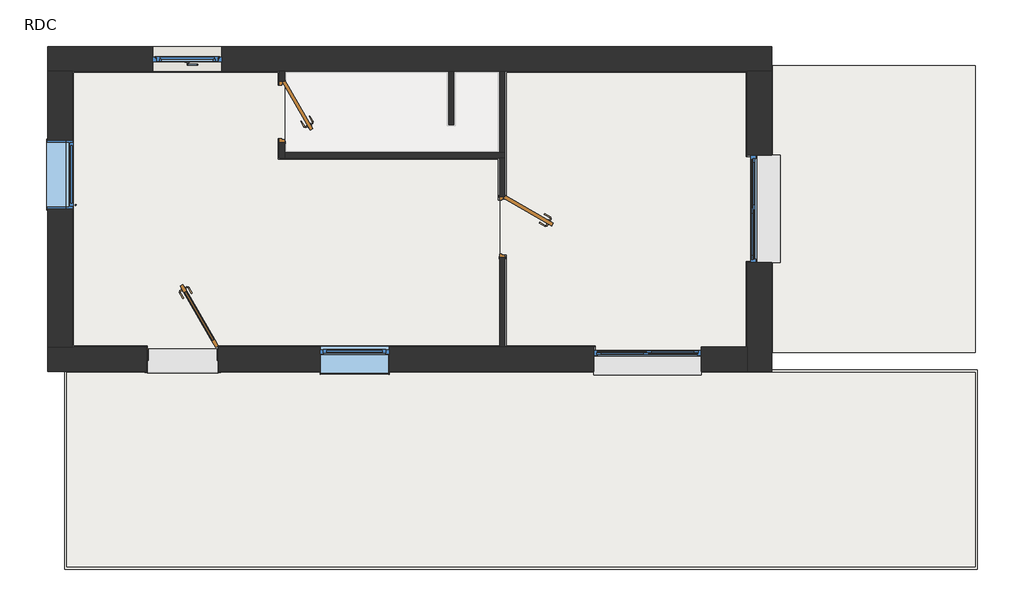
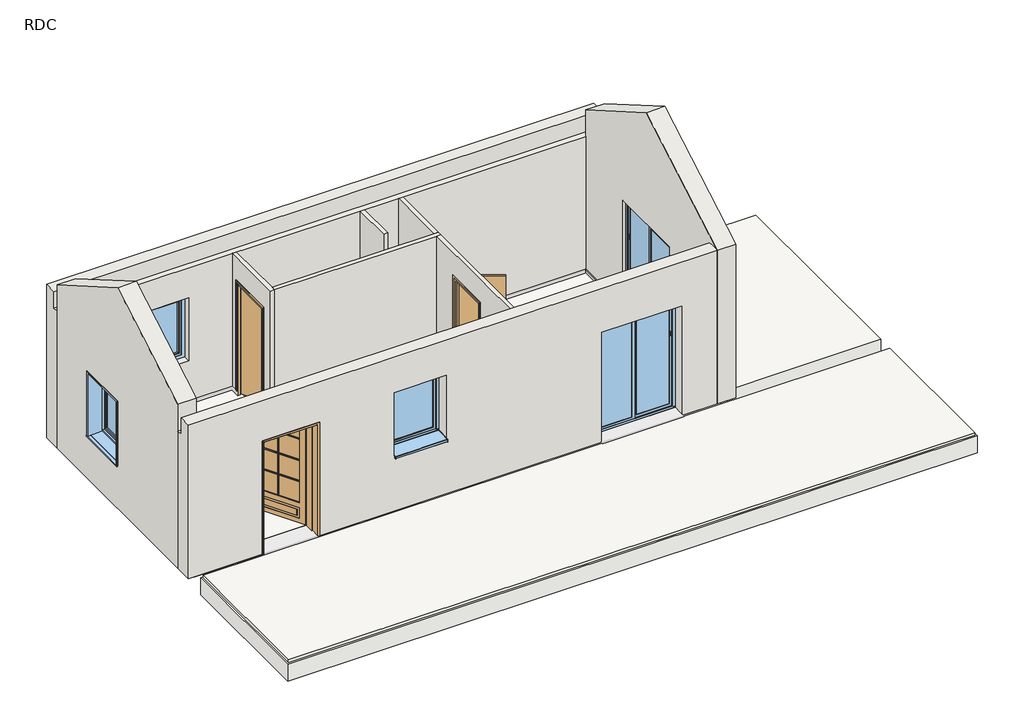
# One storey, part 1 of 2: 9 walls, 6 slabs, 5 windows, 3 doors, 3 proxies.
"""IFC4 building model written with IfcOpenShell, lengths in millimetres."""

from ifc_helpers import new_model, si_unit, frame, origin, place, context, project, spatial, polyline, circle_curve, ellipse_curve, outline, extrude, faceted_brep, transform, mapped, element, save
from ifc_brep_helpers import plane_surface, cylinder_surface, advanced_brep
from components import door_930_x_2040_mm_3ce59be3, int_simple_pp_0_73m_x_2_04m_0c6bfc17, int_simple_pp_0_73m_x_2_04m_0aa180c3, window_1_vantail_90_x_115_acd99d6d, window_140_x_200_b4d7d047, window_140_x_200_95ae9a11, schueco_aws_60_family1_type_1_a6c24e02, wt_1_panneau_042c0949

model = new_model("IFC4")

# Units and contexts
model_context = context("Model", 3, world=origin())
ifc_project = project(units=[si_unit("LENGTHUNIT", "METRE", prefix="MILLI")], contexts=[model_context])

# Site, building, storey
site = spatial("IfcSite", under=ifc_project)
building = spatial("IfcBuilding", under=site)
storey = spatial("IfcBuildingStorey", under=building, Name="RDC", Elevation=1000.0)

# Proxies
placement = place(None, origin())
element("IfcBuildingElementProxy", 1, Name="Bord des dalles", ObjectType="Bord des dalles", at=placement, inside=storey, context=model_context, shape_type="AdvancedBrep", body=[
    advanced_brep(
    [(11968.5031637, -1953.9493613, 1080.0), (11953.5031637, -1953.9493613, 1067.7576914), (11953.5031637, -1953.9493613, 1020.0), (11968.5031637, -1953.9493613, 1020.0), (11968.5031637, -853.9493613, 1020.0), (11968.5031637, -853.9493613, 1080.0), (11953.5031637, -838.9493613, 1020.0), (11953.5031637, -838.9493613, 1067.7576914), (12076.5031637, -853.9493613, 1080.0), (12076.5031637, -853.9493613, 1020.0), (12076.5031637, -838.9493613, 1020.0), (12076.5031637, -838.9493613, 1067.7576914)],
    [
        (0, 1, circle_curve(frame((11969.0579692, -1953.9493613, 1064.0096219), z_axis=(0.0, -1.0, 0.0), x_axis=(-1.0, 0.0, 0.0)), 16.0)),
        (1, 2),
        (2, 3),
        (3, 0),
        (3, 4),
        (4, 5),
        (5, 0),
        (2, 6),
        (6, 4),
        (1, 7),
        (7, 6),
        (5, 7, ellipse_curve(frame((11969.0579692, -854.5041669, 1064.0096219), z_axis=(-0.7071067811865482, -0.7071067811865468, 0.0), x_axis=(0.7071067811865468, -0.7071067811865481, 0.0)), 22.627417, 16.0)),
        (8, 9),
        (9, 10),
        (10, 11),
        (11, 8, circle_curve(frame((12076.5031637, -854.5041669, 1064.0096219), z_axis=(1.0, 0.0, 0.0), x_axis=(0.0, 1.0, 0.0)), 16.0)),
        (4, 9),
        (8, 5),
        (6, 10),
        (7, 11),
    ],
    [
        plane_surface(frame((11908.5031637, -1953.9493613, 1020.0), z_axis=(0.0, -1.0, 0.0), x_axis=(0.0, 0.0, 1.0))),
        plane_surface(frame((11968.5031637, -1953.9493613, 1020.0), z_axis=(1.0, 0.0, 0.0), x_axis=(0.0, 1.0, 0.0))),
        plane_surface(frame((11953.5031637, -1953.9493613, 1020.0), z_axis=(0.0, 0.0, -1.0), x_axis=(0.0, 1.0, 0.0))),
        plane_surface(frame((11953.5031637, -1953.9493613, 1067.7576914), z_axis=(-1.0, 0.0, 0.0), x_axis=(0.0, 1.0, 0.0))),
        cylinder_surface(frame((11969.0579692, -1953.9493613, 1064.0096219), z_axis=(0.0, -1.0, 0.0), x_axis=(-1.0, 0.0, 0.0)), 16.0),
        plane_surface(frame((12076.5031637, -853.9493613, 960.0), z_axis=(1.0, 0.0, 0.0), x_axis=(0.0, 1.0, 0.0))),
        plane_surface(frame((11968.5031637, -853.9493613, 1020.0), z_axis=(0.0, -1.0, 0.0), x_axis=(1.0, 0.0, 0.0))),
        plane_surface(frame((11953.5031637, -838.9493613, 1020.0), z_axis=(0.0, 0.0, -1.0), x_axis=(1.0, 0.0, 0.0))),
        plane_surface(frame((11953.5031637, -838.9493613, 1067.7576914), z_axis=(0.0, 1.0, 0.0), x_axis=(1.0, 0.0, 0.0))),
        cylinder_surface(frame((11968.5031637, -854.5041669, 1064.0096219), z_axis=(-1.0, 0.0, 0.0), x_axis=(0.0, 1.0, 0.0)), 16.0),
    ],
    [
        (0, [[1, 2, 3, 4]]),
        (1, [[-4, 5, 6, 7]]),
        (2, [[-3, 8, 9, -5]]),
        (3, [[-2, 10, 11, -8]]),
        (4, [[-1, -7, 12, -10]]),
        (5, [[13, 14, 15, 16]]),
        (6, [[-6, 17, -13, 18]]),
        (7, [[-9, 19, -14, -17]]),
        (8, [[-11, 20, -15, -19]]),
        (9, [[-12, -18, -16, -20]]),
    ],
),
    advanced_brep(
    [(11968.5031637, 1646.0506387, 1080.0), (11968.5031637, 1646.0506387, 1020.0), (11953.5031637, 1631.0506387, 1020.0), (11953.5031637, 1631.0506387, 1067.7576914), (11968.5031637, 546.0506387, 1080.0), (11968.5031637, 546.0506387, 1020.0), (11953.5031637, 531.0506387, 1020.0), (11953.5031637, 531.0506387, 1067.7576914), (12076.5031637, 546.0506387, 1080.0), (12076.5031637, 531.0506387, 1067.7576914), (12076.5031637, 531.0506387, 1020.0), (12076.5031637, 546.0506387, 1020.0)],
    [
        (0, 1),
        (1, 2),
        (2, 3),
        (3, 0, ellipse_curve(frame((11969.0579692, 1646.6054442, 1064.0096219), z_axis=(-0.7071067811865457, 0.7071067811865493, 0.0), x_axis=(-0.7071067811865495, -0.7071067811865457, 0.0)), 22.627417, 16.0)),
        (4, 5),
        (5, 1),
        (0, 4),
        (5, 6),
        (6, 2),
        (6, 7),
        (7, 3),
        (7, 4, ellipse_curve(frame((11969.0579692, 546.6054442, 1064.0096219), z_axis=(-0.707106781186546, 0.7071067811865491, 0.0), x_axis=(-0.7071067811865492, -0.7071067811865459, 0.0)), 22.627417, 16.0)),
        (8, 9, circle_curve(frame((12076.5031637, 546.6054442, 1064.0096219), z_axis=(1.0, 0.0, 0.0), x_axis=(0.0, -1.0, 0.0)), 16.0)),
        (9, 10),
        (10, 11),
        (11, 8),
        (11, 5),
        (4, 8),
        (10, 6),
        (9, 7),
    ],
    [
        plane_surface(frame((11968.5031637, 1646.0506387, 1020.0), z_axis=(-0.7071067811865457, 0.7071067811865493, 0.0), x_axis=(-0.7071067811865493, -0.7071067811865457, 0.0))),
        plane_surface(frame((11968.5031637, 546.0506387, 1020.0), z_axis=(1.0, 0.0, 0.0), x_axis=(0.0, 1.0, 0.0))),
        plane_surface(frame((11953.5031637, 531.0506387, 1020.0), z_axis=(0.0, 0.0, -1.0), x_axis=(0.0, 1.0, 0.0))),
        plane_surface(frame((11953.5031637, 531.0506387, 1067.7576914), z_axis=(-1.0, 0.0, 0.0), x_axis=(0.0, 1.0, 0.0))),
        cylinder_surface(frame((11969.0579692, 546.0506387, 1064.0096219), z_axis=(0.0, -1.0, 0.0), x_axis=(-1.0, 0.0, 0.0)), 16.0),
        plane_surface(frame((12076.5031637, 546.0506387, 960.0), z_axis=(1.0, 0.0, 0.0), x_axis=(0.0, -1.0, 0.0))),
        plane_surface(frame((12076.5031637, 546.0506387, 1020.0), z_axis=(0.0, 1.0, 0.0), x_axis=(-1.0, 0.0, 0.0))),
        plane_surface(frame((12076.5031637, 531.0506387, 1020.0), z_axis=(0.0, 0.0, -1.0), x_axis=(-1.0, 0.0, 0.0))),
        plane_surface(frame((12076.5031637, 531.0506387, 1067.7576914), z_axis=(0.0, -1.0, 0.0), x_axis=(-1.0, 0.0, 0.0))),
        cylinder_surface(frame((12076.5031637, 546.6054442, 1064.0096219), z_axis=(1.0, 0.0, 0.0), x_axis=(0.0, -1.0, 0.0)), 16.0),
    ],
    [
        (0, [[1, 2, 3, 4]]),
        (1, [[5, 6, -1, 7]]),
        (2, [[8, 9, -2, -6]]),
        (3, [[10, 11, -3, -9]]),
        (4, [[12, -7, -4, -11]]),
        (5, [[13, 14, 15, 16]]),
        (6, [[-16, 17, -5, 18]]),
        (7, [[-15, 19, -8, -17]]),
        (8, [[-14, 20, -10, -19]]),
        (9, [[-13, -18, -12, -20]]),
    ],
),
])
element("IfcBuildingElementProxy", 2, Name="Bord des dalles", ObjectType="Bord des dalles", at=placement, inside=storey, context=model_context, shape_type="AdvancedBrep", body=[
    advanced_brep(
    [(9968.5031637, -1953.9493613, 1080.0), (9983.5031637, -1938.9493613, 1067.7576914), (9983.5031637, -1938.9493613, 1020.0), (9968.5031637, -1953.9493613, 1020.0), (9968.5031637, -2001.9493613, 1080.0), (9968.5031637, -2001.9493613, 1020.0), (9983.5031637, -2001.9493613, 1020.0), (9983.5031637, -2001.9493613, 1067.7576914)],
    [
        (0, 1, ellipse_curve(frame((9967.9483581, -1954.5041669, 1064.0096219), z_axis=(-0.7071067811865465, 0.7071067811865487, 0.0), x_axis=(0.7071067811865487, 0.7071067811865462, 0.0)), 22.627417, 16.0)),
        (1, 2),
        (2, 3),
        (3, 0),
        (4, 5),
        (5, 6),
        (6, 7),
        (7, 4, circle_curve(frame((9967.9483581, -2001.9493613, 1064.0096219), z_axis=(0.0, -1.0, 0.0), x_axis=(1.0, 0.0, 0.0)), 16.0)),
        (3, 5),
        (4, 0),
        (2, 6),
        (1, 7),
    ],
    [
        plane_surface(frame((9968.5031637, -1953.9493613, 1020.0), z_axis=(-0.7071067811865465, 0.7071067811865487, 0.0), x_axis=(0.7071067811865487, 0.7071067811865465, 0.0))),
        plane_surface(frame((9908.5031637, -2001.9493613, 1020.0), z_axis=(0.0, -1.0, 0.0), x_axis=(0.0, 0.0, -1.0))),
        plane_surface(frame((9968.5031637, -1953.9493613, 1020.0), z_axis=(-1.0, 0.0, 0.0), x_axis=(0.0, -1.0, 0.0))),
        plane_surface(frame((9983.5031637, -1938.9493613, 1020.0), z_axis=(0.0, 0.0, -1.0), x_axis=(0.0, -1.0, 0.0))),
        plane_surface(frame((9983.5031637, -1938.9493613, 1067.7576914), z_axis=(1.0, 0.0, 0.0), x_axis=(0.0, -1.0, 0.0))),
        cylinder_surface(frame((9967.9483581, -1953.9493613, 1064.0096219), z_axis=(0.0, 1.0, 0.0), x_axis=(1.0, 0.0, 0.0)), 16.0),
    ],
    [
        (0, [[1, 2, 3, 4]]),
        (1, [[5, 6, 7, 8]]),
        (2, [[-4, 9, -5, 10]]),
        (3, [[-3, 11, -6, -9]]),
        (4, [[-2, 12, -7, -11]]),
        (5, [[-1, -10, -8, -12]]),
    ],
),
])
element("IfcBuildingElementProxy", 3, Name="Bord des dalles", ObjectType="Bord des dalles", at=placement, inside=storey, context=model_context, shape_type="AdvancedBrep", body=[
    advanced_brep(
    [(8808.5031637, -1953.9493613, 1080.0), (8823.5031637, -1938.9493613, 1067.7576914), (8823.5031637, -1938.9493613, 1020.0), (8808.5031637, -1953.9493613, 1020.0), (9968.5031637, -1953.9493613, 1080.0), (9968.5031637, -1953.9493613, 1020.0), (9983.5031637, -1938.9493613, 1020.0), (9983.5031637, -1938.9493613, 1067.7576914)],
    [
        (0, 1, ellipse_curve(frame((8807.9483581, -1954.5041669, 1064.0096219), z_axis=(-0.7071067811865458, 0.7071067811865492, 0.0), x_axis=(-0.7071067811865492, -0.7071067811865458, 0.0)), 22.627417, 16.0)),
        (1, 2),
        (2, 3),
        (3, 0),
        (4, 5),
        (5, 6),
        (6, 7),
        (7, 4, ellipse_curve(frame((9967.9483581, -1954.5041669, 1064.0096219), z_axis=(0.7071067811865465, -0.7071067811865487, 0.0), x_axis=(-0.7071067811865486, -0.7071067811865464, 0.0)), 22.627417, 16.0)),
        (3, 5),
        (4, 0),
        (2, 6),
        (1, 7),
    ],
    [
        plane_surface(frame((8808.5031637, -1953.9493613, 1020.0), z_axis=(-0.7071067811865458, 0.7071067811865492, 0.0), x_axis=(-0.7071067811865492, -0.7071067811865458, 0.0))),
        plane_surface(frame((9968.5031637, -1953.9493613, 1020.0), z_axis=(0.7071067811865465, -0.7071067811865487, 0.0), x_axis=(-0.7071067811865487, -0.7071067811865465, 0.0))),
        plane_surface(frame((8808.5031637, -1953.9493613, 1020.0), z_axis=(0.0, -1.0, 0.0), x_axis=(1.0, 0.0, 0.0))),
        plane_surface(frame((8823.5031637, -1938.9493613, 1020.0), z_axis=(0.0, 0.0, -1.0), x_axis=(1.0, 0.0, 0.0))),
        plane_surface(frame((8823.5031637, -1938.9493613, 1067.7576914), z_axis=(0.0, 1.0, 0.0), x_axis=(1.0, 0.0, 0.0))),
        cylinder_surface(frame((8808.5031637, -1954.5041669, 1064.0096219), z_axis=(-1.0, 0.0, 0.0), x_axis=(0.0, 1.0, 0.0)), 16.0),
    ],
    [
        (0, [[1, 2, 3, 4]]),
        (1, [[5, 6, 7, 8]]),
        (2, [[-4, 9, -5, 10]]),
        (3, [[-3, 11, -6, -9]]),
        (4, [[-2, 12, -7, -11]]),
        (5, [[-1, -10, -8, -12]]),
    ],
),
])

# Doors
door_930_x_2040_mm_shape = door_930_x_2040_mm_3ce59be3(model_context)
element("IfcDoor", 4, ObjectType="HM-Simple-Petits carreaux : 930 x 2040 mm", at=placement, inside=storey, context=model_context, shape_type="MappedRepresentation", body=[
    mapped(door_930_x_2040_mm_shape, transform((4608.5031637, -2113.9493613, 1000.0), x_axis=(1.0, 0.0, 0.0), y_axis=(0.0, 1.0, 0.0), z_axis=(0.0, 0.0, 1.0))),
])
int_simple_pp_0_73m_x_2_04m_shape = int_simple_pp_0_73m_x_2_04m_0c6bfc17(model_context)
element("IfcDoor", 5, ObjectType="Int. Simple : PP (0.73m x 2.04m)", at=placement, inside=storey, context=model_context, shape_type="MappedRepresentation", body=[
    mapped(int_simple_pp_0_73m_x_2_04m_shape, transform((8773.5031637, -353.9493613, 1000.0), x_axis=(0.0, 1.0, 0.0), y_axis=(-1.0, 0.0, 0.0), z_axis=(0.0, 0.0, 1.0))),
])
int_simple_pp_0_73m_x_2_04m_2_shape = int_simple_pp_0_73m_x_2_04m_0aa180c3(model_context)
element("IfcDoor", 6, ObjectType="Int. Simple : PP (0.73m x 2.04m)", at=placement, inside=storey, context=model_context, shape_type="MappedRepresentation", body=[
    mapped(int_simple_pp_0_73m_x_2_04m_2_shape, transform((5903.5031637, 1148.5506387, 1000.0), x_axis=(0.0, 1.0, 0.0), y_axis=(-1.0, 0.0, 0.0), z_axis=(0.0, 0.0, 1.0))),
])

# Slabs
element("IfcSlab", 7, ObjectType="Système DERBIGUM avec dalle sans les plots", at=placement, inside=storey, context=model_context, shape_type="SweptSolid", body=[
    extrude(outline(polyline([(3068.5031637, -4853.9493613), (3068.5031637, -2253.9493613), (14968.5031637, -2253.9493613), (14968.5031637, -4853.9493613), (3068.5031637, -4853.9493613)])), frame((0.0, 0.0, 616.0), z_axis=(0.0, 0.0, 1.0), x_axis=(1.0, 0.0, 0.0)), (0.0, 0.0, 1.0), 314.0),
])
element("IfcSlab", 8, ObjectType="Système DERBIGUM avec dalle sur plots sur support béton", at=placement, inside=storey, context=model_context, shape_type="SweptSolid", body=[
    extrude(outline(polyline([(12298.5031637, -2023.9493613), (12298.5031637, 1716.0506387), (14938.5031637, 1716.0506387), (14938.5031637, -2023.9493613), (12298.5031637, -2023.9493613)])), frame((0.0, 0.0, 616.0), z_axis=(0.0, 0.0, 1.0), x_axis=(1.0, 0.0, 0.0)), (0.0, 0.0, 1.0), 364.0),
])
element("IfcSlab", 9, ObjectType="Dalle en béton - 180", at=placement, inside=storey, context=model_context, shape_type="SweptSolid", body=[
    extrude(outline(polyline([(12068.5031637, 1746.0506387), (12068.5031637, -2053.9493613), (3068.5031637, -2053.9493613), (3068.5031637, 1746.0506387), (12068.5031637, 1746.0506387)])), frame((0.0, 0.0, 820.0), z_axis=(0.0, 0.0, 1.0), x_axis=(1.0, 0.0, 0.0)), (0.0, 0.0, 1.0), 180.0),
])
element("IfcSlab", 10, ObjectType="plancher bungalow", at=placement, inside=storey, context=model_context, shape_type="Brep", body=[
    faceted_brep([(5868.5031637, 1646.0506387, 1000.0), (5868.5031637, 1463.5506387, 1000.0), (5898.5031637, 1463.5506387, 1000.0), (5898.5031637, 1478.5506387, 1000.0), (5938.5031637, 1478.5506387, 1000.0), (5938.5031637, 748.5506387, 1000.0), (5898.5031637, 748.5506387, 1000.0), (5898.5031637, 763.5506387, 1000.0), (5868.5031637, 763.5506387, 1000.0), (5868.5031637, 511.0506387, 1000.0), (8738.5031637, 511.0506387, 1000.0), (8738.5031637, -38.9493613, 1000.0), (8738.5031637, -738.9493613, 1000.0), (8738.5031637, -1866.3160731, 1000.0), (8738.5031637, -1953.9493613, 1000.0), (5103.5031637, -1953.9493613, 1000.0), (5075.0031637, -1953.9493613, 1000.0), (5073.5031637, -1953.9493613, 1000.0), (5073.5031637, -1970.9493613, 1000.0), (4143.5031637, -1970.9493613, 1000.0), (4143.5031637, -1953.9493613, 1000.0), (3168.5031637, -1953.9493613, 1000.0), (3168.5031637, 1646.0506387, 1000.0), (5868.5031637, 1646.0506387, 1020.0), (3168.5031637, 1646.0506387, 1020.0), (3168.5031637, -1953.9493613, 1020.0), (4143.5031637, -1953.9493613, 1020.0), (4143.5031637, -1970.9493613, 1020.0), (5073.5031637, -1970.9493613, 1020.0), (5073.5031637, -1953.9493613, 1020.0), (5075.0031637, -1953.9493613, 1020.0), (5103.5031637, -1953.9493613, 1020.0), (8738.5031637, -1953.9493613, 1020.0), (8738.5031637, -1938.9493613, 1020.0), (8738.5031637, -1866.3160731, 1020.0), (8738.5031637, -738.9493613, 1020.0), (8738.5031637, -38.9493613, 1020.0), (8738.5031637, 511.0506387, 1020.0), (5868.5031637, 511.0506387, 1020.0), (5868.5031637, 763.5506387, 1020.0), (5898.5031637, 763.5506387, 1020.0), (5898.5031637, 748.5506387, 1020.0), (5938.5031637, 748.5506387, 1020.0), (5938.5031637, 1478.5506387, 1020.0), (5898.5031637, 1478.5506387, 1020.0), (5898.5031637, 1463.5506387, 1020.0), (5868.5031637, 1463.5506387, 1020.0)], [[[0, 1, 2, 3, 4, 5, 6, 7, 8, 9, 10, 11, 12, 13, 14, 15, 16, 17, 18, 19, 20, 21, 22]], [[23, 24, 25, 26, 27, 28, 29, 30, 31, 32, 33, 34, 35, 36, 37, 38, 39, 40, 41, 42, 43, 44, 45, 46]], [[10, 9, 38, 37]], [[13, 12, 11, 10, 37, 36, 35, 34]], [[14, 13, 34, 33, 32]], [[15, 14, 32, 31]], [[22, 21, 25, 24]], [[0, 22, 24, 23]], [[1, 0, 23, 46]], [[2, 1, 46, 45]], [[3, 2, 45, 44]], [[4, 3, 44, 43]], [[5, 4, 43, 42]], [[6, 5, 42, 41]], [[7, 6, 41, 40]], [[8, 7, 40, 39]], [[9, 8, 39, 38]], [[16, 15, 31, 30]], [[21, 20, 26, 25]], [[17, 16, 30, 29]], [[18, 17, 29, 28]], [[19, 18, 28, 27]], [[20, 19, 27, 26]]]),
])
element("IfcSlab", 11, ObjectType="plancher bungalow", at=placement, inside=storey, context=model_context, shape_type="Brep", body=[
    faceted_brep([(11968.5031637, 1646.0506387, 1000.0), (11968.5031637, 546.0506387, 1000.0), (12076.5031637, 546.0506387, 1000.0), (12076.5031637, -853.9493613, 1000.0), (11968.5031637, -853.9493613, 1000.0), (11968.5031637, -1953.9493613, 1000.0), (11368.5031637, -1953.9493613, 1000.0), (11368.5031637, -2001.9493613, 1000.0), (9968.5031637, -2001.9493613, 1000.0), (9968.5031637, -1953.9493613, 1000.0), (8808.5031637, -1953.9493613, 1000.0), (8808.5031637, -753.9493613, 1000.0), (8768.5031637, -753.9493613, 1000.0), (8768.5031637, -738.9493613, 1000.0), (8738.5031637, -738.9493613, 1000.0), (8738.5031637, -38.9493613, 1000.0), (8768.5031637, -38.9493613, 1000.0), (8768.5031637, -23.9493613, 1000.0), (8808.5031637, -23.9493613, 1000.0), (8808.5031637, 1646.0506387, 1000.0), (11968.5031637, 1646.0506387, 1020.0), (8808.5031637, 1646.0506387, 1020.0), (8808.5031637, -23.9493613, 1020.0), (8768.5031637, -23.9493613, 1020.0), (8768.5031637, -38.9493613, 1020.0), (8738.5031637, -38.9493613, 1020.0), (8738.5031637, -738.9493613, 1020.0), (8768.5031637, -738.9493613, 1020.0), (8768.5031637, -753.9493613, 1020.0), (8808.5031637, -753.9493613, 1020.0), (8808.5031637, -1953.9493613, 1020.0), (9968.5031637, -1953.9493613, 1020.0), (9968.5031637, -2001.9493613, 1020.0), (9983.5031637, -2001.9493613, 1020.0), (11368.5031637, -2001.9493613, 1020.0), (11368.5031637, -1953.9493613, 1020.0), (11953.5031637, -1953.9493613, 1020.0), (11968.5031637, -1953.9493613, 1020.0), (11968.5031637, -853.9493613, 1020.0), (12076.5031637, -853.9493613, 1020.0), (12076.5031637, -838.9493613, 1020.0), (12076.5031637, 531.0506387, 1020.0), (12076.5031637, 546.0506387, 1020.0), (11968.5031637, 546.0506387, 1020.0)], [[[0, 1, 2, 3, 4, 5, 6, 7, 8, 9, 10, 11, 12, 13, 14, 15, 16, 17, 18, 19]], [[20, 21, 22, 23, 24, 25, 26, 27, 28, 29, 30, 31, 32, 33, 34, 35, 36, 37, 38, 39, 40, 41, 42, 43]], [[1, 0, 20, 43]], [[2, 1, 43, 42]], [[3, 2, 42, 41, 40, 39]], [[4, 3, 39, 38]], [[5, 4, 38, 37]], [[6, 5, 37, 36, 35]], [[7, 6, 35, 34]], [[8, 7, 34, 33, 32]], [[9, 8, 32, 31]], [[10, 9, 31, 30]], [[11, 10, 30, 29]], [[19, 18, 22, 21]], [[0, 19, 21, 20]], [[12, 11, 29, 28]], [[13, 12, 28, 27]], [[14, 13, 27, 26]], [[15, 14, 26, 25]], [[16, 15, 25, 24]], [[17, 16, 24, 23]], [[18, 17, 23, 22]]]),
])
element("IfcSlab", 12, ObjectType="dalle sur plots seule", at=placement, inside=storey, context=model_context, shape_type="SweptSolid", body=[
    extrude(outline(polyline([(3098.5031637, -4823.9493613), (3098.5031637, -2283.9493613), (14938.5031637, -2283.9493613), (14938.5031637, -4823.9493613), (3098.5031637, -4823.9493613)])), frame((0.0, 0.0, 930.0), z_axis=(0.0, 0.0, 1.0), x_axis=(1.0, 0.0, 0.0)), (0.0, 0.0, 1.0), 50.0),
])

# Walls
element("IfcWall", 13, ObjectType="Générique - Int. 70 mm", at=placement, inside=storey, context=model_context, shape_type="Brep", body=[
    faceted_brep([(5868.5031637, 511.0506387, 3500.0), (5868.5031637, 1646.0506387, 3500.0), (5868.5031637, 1646.0506387, 1000.0), (5868.5031637, 1513.5506387, 1000.0), (5868.5031637, 1513.5506387, 3075.0), (5868.5031637, 713.5506387, 3075.0), (5868.5031637, 713.5506387, 1000.0), (5868.5031637, 511.0506387, 1000.0), (5938.5031637, 1646.0506387, 3500.0), (5938.5031637, 581.0506387, 3500.0), (5938.5031637, 511.0506387, 3500.0), (5938.5031637, 511.0506387, 1000.0), (5938.5031637, 581.0506387, 1000.0), (5938.5031637, 713.5506387, 1000.0), (5938.5031637, 713.5506387, 3075.0), (5938.5031637, 1513.5506387, 3075.0), (5938.5031637, 1513.5506387, 1000.0), (5938.5031637, 1646.0506387, 1000.0)], [[[0, 1, 2, 3, 4, 5, 6, 7]], [[8, 9, 10, 11, 12, 13, 14, 15, 16, 17]], [[2, 17, 16, 3]], [[11, 7, 6, 13, 12]], [[1, 0, 10, 9, 8]], [[2, 1, 8, 17]], [[0, 7, 11, 10]], [[15, 4, 3, 16]], [[4, 15, 14, 5]], [[5, 14, 13, 6]]]),
])
element("IfcWall", 14, ObjectType="Générique - Int. 70 mm", at=placement, inside=storey, context=model_context, shape_type="Brep", body=[
    faceted_brep([(5938.5031637, 511.0506387, 1000.0), (8738.5031637, 511.0506387, 1000.0), (8808.5031637, 511.0506387, 1000.0), (8808.5031637, 511.0506387, 3500.0), (8738.5031637, 511.0506387, 3500.0), (5938.5031637, 511.0506387, 3500.0), (5938.5031637, 581.0506387, 1000.0), (5938.5031637, 581.0506387, 3500.0), (8738.5031637, 581.0506387, 3500.0), (8808.5031637, 581.0506387, 3500.0), (8808.5031637, 581.0506387, 1000.0), (8738.5031637, 581.0506387, 1000.0)], [[[0, 1, 2, 3, 4, 5]], [[6, 7, 8, 9, 10, 11]], [[2, 1, 0, 6, 11, 10]], [[5, 4, 3, 9, 8, 7]], [[0, 5, 7, 6]], [[3, 2, 10, 9]]]),
])
element("IfcWall", 15, ObjectType="Générique - Int. 70 mm", at=placement, inside=storey, context=model_context, shape_type="SweptSolid", body=[
    extrude(outline(polyline([(8808.5031637, 1646.0506387), (8808.5031637, 581.0506387), (8738.5031637, 581.0506387), (8738.5031637, 1646.0506387), (8808.5031637, 1646.0506387)])), frame((0.0, 0.0, 1000.0), z_axis=(0.0, 0.0, 1.0), x_axis=(1.0, 0.0, 0.0)), (0.0, 0.0, 1.0), 2500.0),
])
element("IfcWall", 16, ObjectType="Générique - Int. 70 mm", at=placement, inside=storey, context=model_context, shape_type="SweptSolid", body=[
    extrude(outline(polyline([(-1953.9493613, 1000.0), (-1953.9493613, 3500.0), (511.0506387, 3500.0), (511.0506387, 1000.0), (11.0506387, 1000.0), (11.0506387, 3075.0), (-788.9493613, 3075.0), (-788.9493613, 1000.0), (-1953.9493613, 1000.0)])), frame((8738.5031637, 0.0, 0.0), z_axis=(1.0, 0.0, 0.0), x_axis=(0.0, 1.0, 0.0)), (0.0, 0.0, 1.0), 70.0),
])
element("IfcWall", 17, ObjectType="Générique - Int. 70 mm", at=placement, inside=storey, context=model_context, shape_type="SweptSolid", body=[
    extrude(outline(polyline([(8073.5031637, 946.0506387), (8073.5031637, 1646.0506387), (8143.5031637, 1646.0506387), (8143.5031637, 946.0506387), (8073.5031637, 946.0506387)])), frame((0.0, 0.0, 1000.0), z_axis=(0.0, 0.0, 1.0), x_axis=(1.0, 0.0, 0.0)), (0.0, 0.0, 1.0), 2500.0),
])
element("IfcWall", 18, ObjectType="Ext. Voile BA 20 + Isolant 10", at=placement, inside=storey, context=model_context, shape_type="Brep", body=[
    faceted_brep([(2848.5031637, 1646.0506387, 1000.0), (3168.5031637, 1646.0506387, 1000.0), (11968.5031637, 1646.0506387, 1000.0), (12288.5031637, 1646.0506387, 1000.0), (12288.5031637, 1646.0506387, 3500.0), (3168.5031637, 1646.0506387, 3500.0), (3068.5031637, 1646.0506387, 3500.0), (2848.5031637, 1646.0506387, 3500.0), (4218.5031637, 1646.0506387, 2950.0), (5118.5031637, 1646.0506387, 2950.0), (5118.5031637, 1646.0506387, 1800.0), (4218.5031637, 1646.0506387, 1800.0), (2848.5031637, 1966.0506387, 1000.0), (2848.5031637, 1966.0506387, 3800.0), (12288.5031637, 1966.0506387, 3800.0), (12288.5031637, 1966.0506387, 1000.0), (5118.5031637, 1966.0506387, 1800.0), (5118.5031637, 1966.0506387, 2930.0), (4218.5031637, 1966.0506387, 2930.0), (4218.5031637, 1966.0506387, 1800.0), (2848.5031637, 1746.0506387, 3500.0), (2848.5031637, 1746.0506387, 3800.0), (12288.5031637, 1746.0506387, 3800.0), (12288.5031637, 1746.0506387, 3500.0), (5118.5031637, 1826.0506387, 2950.0), (4218.5031637, 1826.0506387, 2950.0), (4218.5031637, 1826.0506387, 2930.0), (5118.5031637, 1826.0506387, 2930.0), (5118.5031637, 1766.0506387, 2950.0), (4218.5031637, 1766.0506387, 2950.0), (5118.5031637, 1826.0506387, 1800.0), (5118.5031637, 1766.0506387, 1800.0), (4218.5031637, 1826.0506387, 1800.0), (4218.5031637, 1766.0506387, 1800.0)], [[[0, 1, 2, 3, 4, 5, 6, 7], [8, 9, 10, 11]], [[12, 13, 14, 15], [16, 17, 18, 19]], [[3, 2, 1, 0, 12, 15]], [[0, 7, 20, 21, 13, 12]], [[22, 14, 13, 21]], [[20, 23, 22, 21]], [[7, 6, 5, 4, 23, 20]], [[24, 25, 26, 27]], [[25, 24, 28, 9, 8, 29]], [[10, 9, 28, 24, 27, 17, 16, 30, 31]], [[11, 10, 31, 30, 16, 19, 32, 33]], [[8, 11, 33, 32, 19, 18, 26, 25, 29]], [[26, 18, 17, 27]], [[4, 3, 15, 14, 22, 23]]]),
])
element("IfcWall", 19, ObjectType="Ext. Voile BA 20 + Isolant 10", at=placement, inside=storey, context=model_context, shape_type="Brep", body=[
    faceted_brep([(11968.5031637, -2273.9493613, 1000.0), (11968.5031637, -2273.9493613, 3800.0), (11968.5031637, -153.9493613, 5023.9825707), (11968.5031637, 1646.0506387, 3984.7520861), (11968.5031637, 1646.0506387, 1000.0), (11968.5031637, 546.0506387, 1000.0), (11968.5031637, 546.0506387, 3000.0), (11968.5031637, -853.9493613, 3000.0), (11968.5031637, -853.9493613, 1000.0), (11968.5031637, -1953.9493613, 1000.0), (12288.5031637, -2273.9493613, 3800.0), (12288.5031637, -2273.9493613, 1000.0), (12288.5031637, -853.9493613, 1000.0), (12288.5031637, -853.9493613, 3000.0), (12288.5031637, 546.0506387, 3000.0), (12288.5031637, 546.0506387, 1000.0), (12288.5031637, 1646.0506387, 1000.0), (12288.5031637, 1646.0506387, 3500.0), (12288.5031637, 1646.0506387, 3984.7520861), (12288.5031637, -153.9493613, 5023.9825707)], [[[0, 1, 2, 3, 4, 5, 6, 7, 8, 9]], [[10, 11, 12, 13, 14, 15, 16, 17, 18, 19]], [[11, 0, 9, 8, 12]], [[4, 16, 15, 5]], [[1, 0, 11, 10]], [[14, 6, 5, 15]], [[6, 14, 13, 7]], [[7, 13, 12, 8]], [[4, 3, 18, 17, 16]], [[18, 3, 2, 19]], [[1, 10, 19, 2]]]),
])
element("IfcWall", 20, ObjectType="Ext. Voile BA 20 + Isolant 10", at=placement, inside=storey, context=model_context, shape_type="Brep", body=[
    faceted_brep([(11968.5031637, -1953.9493613, 3500.0), (11968.5031637, -1953.9493613, 1000.0), (11368.5031637, -1953.9493613, 1000.0), (11368.5031637, -1953.9493613, 3000.0), (9968.5031637, -1953.9493613, 3000.0), (9968.5031637, -1953.9493613, 1000.0), (5075.0031637, -1953.9493613, 1000.0), (5075.0031637, -1953.9493613, 3041.5), (4142.0031637, -1953.9493613, 3041.5), (4142.0031637, -1953.9493613, 1000.0), (3168.5031637, -1953.9493613, 1000.0), (2848.5031637, -1953.9493613, 1000.0), (2848.5031637, -1953.9493613, 3500.0), (3068.5031637, -1953.9493613, 3500.0), (3168.5031637, -1953.9493613, 3500.0), (6398.5031637, -1953.9493613, 3150.0), (6398.5031637, -1953.9493613, 2000.0), (7298.5031637, -1953.9493613, 2000.0), (7298.5031637, -1953.9493613, 3150.0), (11968.5031637, -2273.9493613, 3800.0), (2848.5031637, -2273.9493613, 3800.0), (2848.5031637, -2273.9493613, 1000.0), (4142.0031637, -2273.9493613, 1000.0), (4142.0031637, -2273.9493613, 3041.5), (5075.0031637, -2273.9493613, 3041.5), (5075.0031637, -2273.9493613, 1000.0), (9968.5031637, -2273.9493613, 1000.0), (9968.5031637, -2273.9493613, 3000.0), (11368.5031637, -2273.9493613, 3000.0), (11368.5031637, -2273.9493613, 1000.0), (11968.5031637, -2273.9493613, 1000.0), (6398.5031637, -2273.9493613, 2000.0), (6398.5031637, -2273.9493613, 3150.0), (7298.5031637, -2273.9493613, 3150.0), (7298.5031637, -2273.9493613, 2000.0), (11968.5031637, -2053.9493613, 3500.0), (11968.5031637, -2053.9493613, 3800.0), (2848.5031637, -2053.9493613, 3800.0), (2848.5031637, -2053.9493613, 3500.0)], [[[0, 1, 2, 3, 4, 5, 6, 7, 8, 9, 10, 11, 12, 13, 14], [15, 16, 17, 18]], [[19, 20, 21, 22, 23, 24, 25, 26, 27, 28, 29, 30], [31, 32, 33, 34]], [[1, 0, 35, 36, 19, 30]], [[12, 11, 21, 20, 37, 38]], [[4, 27, 26, 5]], [[27, 4, 3, 28]], [[28, 3, 2, 29]], [[0, 14, 13, 12, 38, 35]], [[31, 16, 15, 32]], [[32, 15, 18, 33]], [[33, 18, 17, 34]], [[16, 31, 34, 17]], [[24, 7, 6, 25]], [[7, 24, 23, 8]], [[8, 23, 22, 9]], [[2, 1, 30, 29]], [[6, 5, 26, 25]], [[11, 10, 9, 22, 21]], [[20, 19, 36, 37]], [[38, 37, 36, 35]]]),
])
element("IfcWall", 21, ObjectType="Ext. Voile BA 20 + Isolant 10", at=placement, inside=storey, context=model_context, shape_type="Brep", body=[
    faceted_brep([(3168.5031637, -1953.9493613, 1000.0), (3168.5031637, 1646.0506387, 1000.0), (3168.5031637, 1646.0506387, 3500.0), (3168.5031637, -1953.9493613, 3500.0), (3168.5031637, 746.0506387, 2950.0), (3168.5031637, 746.0506387, 1800.0), (3168.5031637, -153.9493613, 1800.0), (3168.5031637, -153.9493613, 2950.0), (3168.5031637, 1646.0506387, 3984.7520861), (3168.5031637, -153.9493613, 5023.9825707), (3168.5031637, -1953.9493613, 3984.7520861), (3168.5031637, -1953.9493613, 3570.0), (3168.5031637, 1646.0506387, 3570.0), (2848.5031637, 1646.0506387, 1000.0), (2848.5031637, -1953.9493613, 1000.0), (2848.5031637, -1953.9493613, 3500.0), (2848.5031637, -1953.9493613, 3984.7520861), (2848.5031637, -153.9493613, 5023.9825707), (2848.5031637, 1646.0506387, 3984.7520861), (2848.5031637, 1646.0506387, 3500.0), (2848.5031637, 746.0506387, 1780.0), (2848.5031637, 746.0506387, 2950.0), (2848.5031637, -153.9493613, 2950.0), (2848.5031637, -153.9493613, 1780.0), (3068.5031637, -1953.9493613, 3500.0), (3068.5031637, -1953.9493613, 3570.0), (3068.5031637, 1646.0506387, 3570.0), (3068.5031637, 1646.0506387, 3500.0), (2888.5031637, 746.0506387, 1780.0), (2888.5031637, 746.0506387, 1765.0), (3138.5031637, 746.0506387, 1765.0), (3138.5031637, 746.0506387, 1800.0), (3138.5031637, -153.9493613, 1800.0), (3138.5031637, -153.9493613, 1765.0), (2888.5031637, -153.9493613, 1765.0), (2888.5031637, -153.9493613, 1780.0)], [[[0, 1, 2, 3], [4, 5, 6, 7]], [[8, 9, 10, 11, 12]], [[13, 14, 15, 16, 17, 18, 19], [20, 21, 22, 23]], [[16, 15, 14, 0, 3, 24, 25, 11, 10]], [[13, 19, 18, 8, 12, 26, 27, 2, 1]], [[4, 21, 20, 28, 29, 30, 31, 5]], [[6, 32, 33, 34, 35, 23, 22, 7]], [[5, 31, 32, 6]], [[31, 30, 33, 32]], [[30, 29, 34, 33]], [[29, 28, 35, 34]], [[28, 20, 23, 35]], [[21, 4, 7, 22]], [[25, 26, 12, 11]], [[27, 24, 3, 2]], [[26, 25, 24, 27]], [[1, 0, 14, 13]], [[16, 10, 9, 17]], [[8, 18, 17, 9]]]),
])

# Windows
window_1_vantail_90_x_115_shape = window_1_vantail_90_x_115_acd99d6d(model_context)
element("IfcWindow", 22, ObjectType="1 Vantail : 90 x 115", at=placement, inside=storey, context=model_context, shape_type="MappedRepresentation", body=[
    mapped(window_1_vantail_90_x_115_shape, transform((3008.5031637, 296.0506387, 1000.0), x_axis=(0.0, 1.0, 0.0), y_axis=(-1.0, 0.0, 0.0), z_axis=(0.0, 0.0, 1.0))),
])
window_140_x_200_shape = window_140_x_200_b4d7d047(model_context)
element("IfcWindow", 23, ObjectType="T-2 Vantaux coulissant : 140 x 200", at=placement, inside=storey, context=model_context, shape_type="MappedRepresentation", body=[
    mapped(window_140_x_200_shape, transform((10668.5031637, -2113.9493613, 1000.0), x_axis=(1.0, 0.0, 0.0), y_axis=(0.0, 1.0, 0.0), z_axis=(0.0, 0.0, 1.0))),
])
window_140_x_200_2_shape = window_140_x_200_95ae9a11(model_context)
element("IfcWindow", 24, ObjectType="T-2 Vantaux coulissant : 140 x 200", at=placement, inside=storey, context=model_context, shape_type="MappedRepresentation", body=[
    mapped(window_140_x_200_2_shape, transform((12128.5031637, -153.9493613, 1000.0), x_axis=(0.0, -1.0, 0.0), y_axis=(1.0, 0.0, 0.0), z_axis=(0.0, 0.0, 1.0))),
])
schueco_aws_60_family1_type_1_shape = schueco_aws_60_family1_type_1_a6c24e02(model_context)
element("IfcWindow", 25, ObjectType="Schueco_AWS-60_Family1 : Type 1", at=placement, inside=storey, context=model_context, shape_type="MappedRepresentation", body=[
    mapped(schueco_aws_60_family1_type_1_shape, transform((4668.5031637, 1806.0506387, 1000.0), x_axis=(1.0, 0.0, 0.0), y_axis=(0.0, 1.0, 0.0), z_axis=(0.0, 0.0, 1.0))),
])
wt_1_panneau_shape = wt_1_panneau_042c0949(model_context)
element("IfcWindow", 26, ObjectType="WT-1 panneau : 0.90 m x 1.15 m", at=placement, inside=storey, context=model_context, shape_type="MappedRepresentation", body=[
    mapped(wt_1_panneau_shape, transform((6848.5031637, -2113.9493613, 1200.0), x_axis=(1.0, 0.0, 0.0), y_axis=(0.0, 1.0, 0.0), z_axis=(0.0, 0.0, 1.0))),
])

save(model, "model.ifc")
